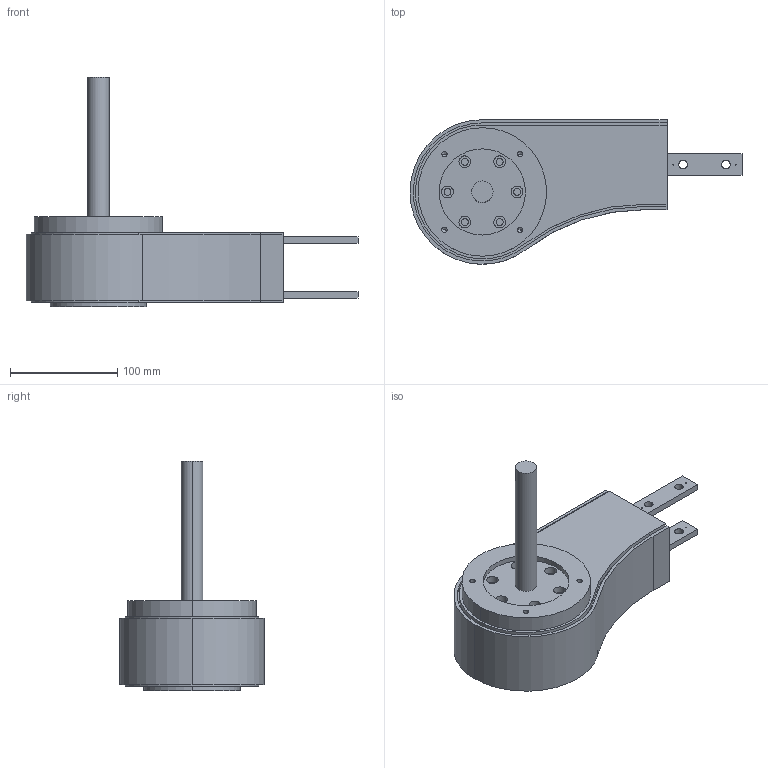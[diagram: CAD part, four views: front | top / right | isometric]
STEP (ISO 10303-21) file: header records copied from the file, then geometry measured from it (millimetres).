
FILE_DESCRIPTION (( 'STEP AP214' ), '1' );
FILE_NAME ('CS SL Aandr. - Omloop.65 Aandr. Links.STEP', '2017-02-08T07:32:45', ( '' ), ( '' ), 'SwSTEP 2.0', 'SolidWorks 2016', '' );
FILE_SCHEMA (( 'AUTOMOTIVE_DESIGN' ));
Length unit declared in the file: millimetre
Products named in the file (1): CS SL Aandr. - Omloop.65 Aandr. Links
Bounding box: 310 x 134.96 x 214 mm (x, y, z)
Volume: 1822288.5 mm3; surface area: 125850 mm2
Topology: 1 solids, 1 shells, 118 faces, 286 edges, 184 vertices
Faces by surface type: cylinder 67, plane 43, cone 8
Entity records: 3598 total; most frequent: DIRECTION 650, CARTESIAN_POINT 581, ORIENTED_EDGE 556, EDGE_CURVE 278, AXIS2_PLACEMENT_3D 253, VERTEX_POINT 184, EDGE_LOOP 156, LINE 144
